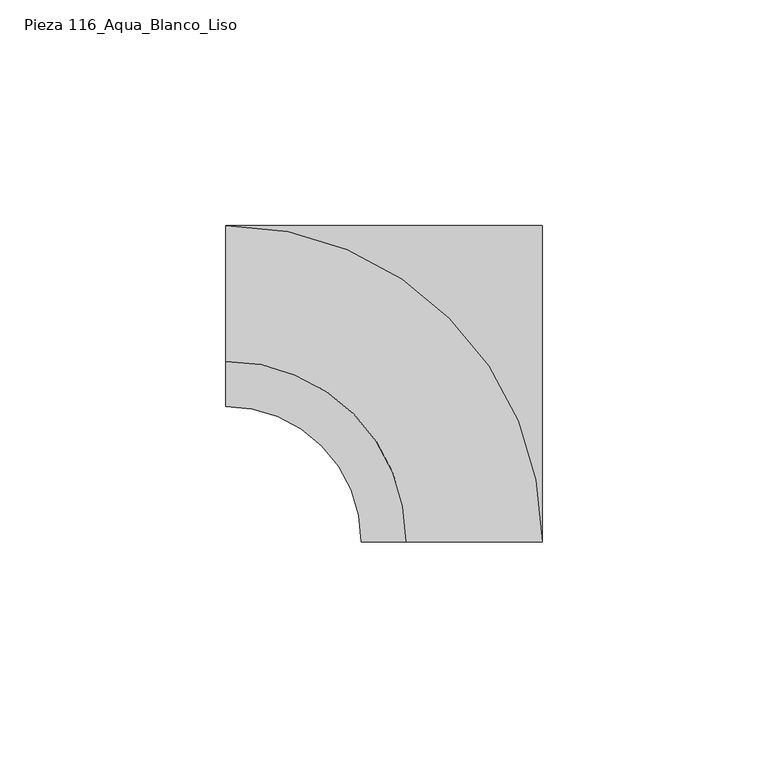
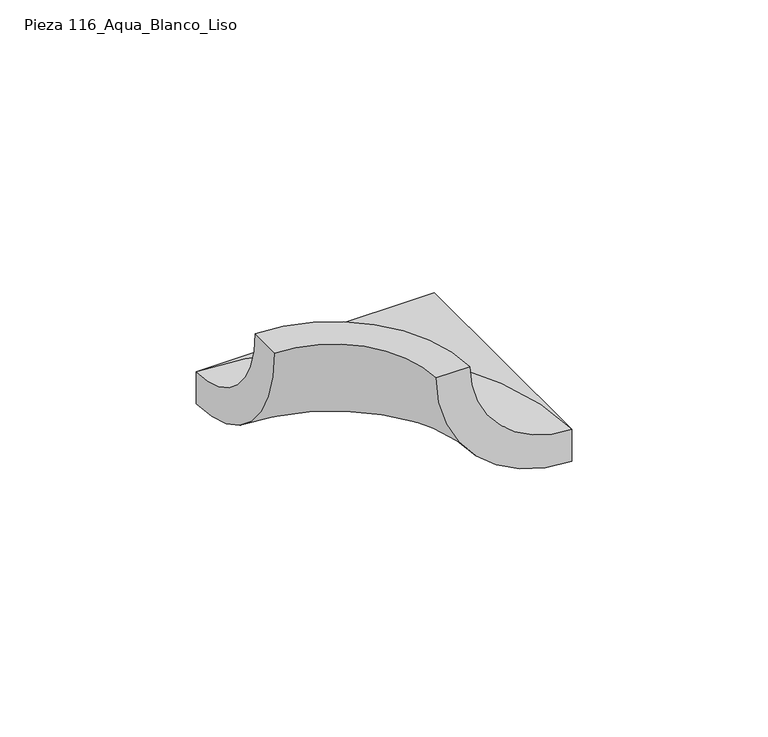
"""IFC4 building model written with IfcOpenShell, lengths in millimetres: proxy geometry, ROSA GRES_116 : Pieza 116_Aqua_Blanco_Liso."""

from ifc_helpers import new_model, si_unit, point, frame, origin, place, context, project, spatial, circle_curve, ellipse_curve, trimmed, source, transform, mapped, element, save
from ifc_brep_helpers import plane_surface, revolved_surface, advanced_brep


def pieza_116_aqua_blanco_liso_e3a47a5f(model_context):
    return source(origin(), model_context, "Body", "AdvancedBrep", [
        advanced_brep(
        [(0.0, 30.0, 40.0), (0.0, 70.0, 0.0), (70.0, 0.0, 0.0), (30.0, 0.0, 40.0), (0.0, 69.9955547, 9.9734111), (0.0, 39.9734114, 40.0), (39.9734114, 0.0, 40.0), (69.9955547, 0.0, 9.9734111), (70.0, 70.0, 9.9734111), (70.0, 70.0, 0.0)],
        [
            (0, 1, circle_curve(frame((0.0, 70.0, 40.0), z_axis=(1.0, 7.844230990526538e-12, 0.0), x_axis=(7.844230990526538e-12, -1.0, 0.0)), 40.0)),
            (1, 2, circle_curve(frame((0.0, 0.0, 0.0), z_axis=(0.0, 0.0, -1.0), x_axis=(1.0, 7.84584653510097e-12, 0.0)), 70.0)),
            (2, 3, circle_curve(frame((70.0, 0.0, 40.0), z_axis=(-7.84584653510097e-12, 1.0, 0.0), x_axis=(-1.0, -7.84584653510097e-12, 0.0)), 40.0)),
            (3, 0, circle_curve(frame((0.0, 0.0, 40.0), z_axis=(0.0, 0.0, 1.0), x_axis=(1.0, 7.84584653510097e-12, 0.0)), 30.0)),
            (4, 5, circle_curve(frame((0.0, 69.9955547, 39.9955547), z_axis=(-1.0, -7.844230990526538e-12, 0.0), x_axis=(7.844230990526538e-12, -1.0, 0.0)), 30.0221435)),
            (5, 6, circle_curve(frame((0.0, 0.0, 40.0), z_axis=(0.0, 0.0, -1.0), x_axis=(1.0, 7.84584653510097e-12, 0.0)), 39.9734114)),
            (6, 7, circle_curve(frame((69.9955547, 0.0, 39.9955547), z_axis=(7.84584653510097e-12, -1.0, 0.0), x_axis=(-1.0, -7.84584653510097e-12, 0.0)), 30.0221435)),
            (7, 4, circle_curve(frame((0.0, 0.0, 9.9734111), z_axis=(0.0, 0.0, 1.0), x_axis=(1.0, 7.84584653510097e-12, 0.0)), 69.9955547)),
            (7, 8),
            (8, 4),
            (5, 0),
            (3, 6),
            (9, 2),
            (1, 9),
            (9, 8),
            (7, 2),
            (4, 1),
        ],
        [
            revolved_surface(trimmed(ellipse_curve(frame((70.0, 0.0, 40.0), z_axis=(-7.84584653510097e-12, 1.0, 0.0), x_axis=(-1.0, -7.84584653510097e-12, 0.0)), 40.0, 40.0), [point((70.0, 0.0, 0.0))], [point((30.0, 0.0, 40.0))], True, "CARTESIAN"), (0.0, 0.0, -45.0), (0.0, 0.0, -1.0)),
            revolved_surface(trimmed(ellipse_curve(frame((69.9955547, 0.0, 39.9955547), z_axis=(7.84584653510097e-12, -1.0, 0.0), x_axis=(-1.0, -7.84584653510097e-12, 0.0)), 30.0221435, 30.0221435), [point((39.9734114, 0.0, 40.0))], [point((69.9955547, 0.0, 9.9734111))], True, "CARTESIAN"), (0.0, 0.0, -45.0), (0.0, 0.0, -1.0)),
            plane_surface(frame((0.0, 0.0, 9.9734111), z_axis=(0.0, 0.0, 1.0), x_axis=(1.0, 7.84584653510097e-12, 0.0))),
            plane_surface(frame((70.0, 70.0, 40.0), z_axis=(0.0, 0.0, 1.0), x_axis=(7.847644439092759e-12, -1.0, 0.0))),
            plane_surface(frame((70.0, 70.0, 0.0), z_axis=(0.0, 0.0, -1.0), x_axis=(-7.847644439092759e-12, 1.0, 0.0))),
            plane_surface(frame((70.0, 70.0, 40.0), z_axis=(1.0, 7.847644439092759e-12, 0.0), x_axis=(0.0, 0.0, -1.0))),
            plane_surface(frame((70.0, 0.0, 40.0), z_axis=(7.847748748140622e-12, -1.0, 0.0), x_axis=(0.0, 0.0, -1.0))),
            plane_surface(frame((0.0, 29.9734114, 40.0), z_axis=(-1.0, -7.854283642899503e-12, 0.0), x_axis=(0.0, 0.0, -1.0))),
            plane_surface(frame((0.0, 70.0, 40.0), z_axis=(-7.849336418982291e-12, 1.0, 0.0), x_axis=(0.0, 0.0, -1.0))),
        ],
        [
            (0, [[1, 2, 3, 4]]),
            (1, [[5, 6, 7, 8]]),
            (2, [[9, 10, -8]]),
            (3, [[-6, 11, -4, 12]]),
            (4, [[13, -2, 14]]),
            (5, [[15, -9, 16, -13]]),
            (6, [[-3, -16, -7, -12]]),
            (7, [[-5, 17, -1, -11]]),
            (8, [[-17, -10, -15, -14]]),
        ],
    ),
    ])


if __name__ == "__main__":
    model = new_model("IFC4")
    model_context = context("Model", 3, world=origin())
    ifc_project = project(units=[si_unit("LENGTHUNIT", "METRE", prefix="MILLI")], contexts=[model_context])
    site = spatial("IfcSite", under=ifc_project)
    building = spatial("IfcBuilding", under=site)
    placement = place(None, origin())
    pieza_116_aqua_blanco_liso_shape = pieza_116_aqua_blanco_liso_e3a47a5f(model_context)
    element("IfcBuildingElementProxy", 1, Name="ROSA GRES_116 : Pieza 116_Aqua_Blanco_Liso", ObjectType="ROSA GRES_116 : Pieza 116_Aqua_Blanco_Liso", at=placement, inside=building, context=model_context, shape_type="MappedRepresentation", body=[
        mapped(pieza_116_aqua_blanco_liso_shape, transform((0.0, 0.0, 0.0), x_axis=(1.0, 0.0, 0.0), y_axis=(0.0, 1.0, 0.0), z_axis=(0.0, 0.0, 1.0))),
    ])
    save(model, "model.ifc")
